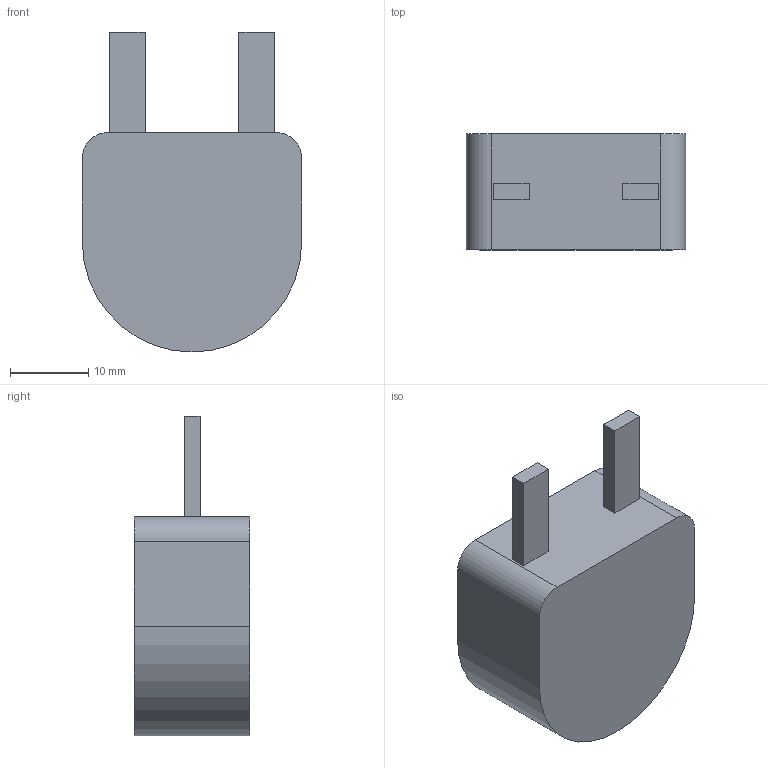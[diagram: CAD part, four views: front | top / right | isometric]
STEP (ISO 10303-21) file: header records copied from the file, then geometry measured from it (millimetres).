
FILE_DESCRIPTION (( 'STEP AP214' ), '1' );
FILE_NAME ('IHXL1100OZEB3R3K3A.STEP', '2025-08-07T20:39:13', ( '' ), ( '' ), 'SwSTEP 2.0', 'SolidWorks 2024', '' );
FILE_SCHEMA (( 'AUTOMOTIVE_DESIGN' ));
Length unit declared in the file: inch
Products named in the file (1): IHXL1100OZEB3R3K3A
Bounding box: 27.94 x 14.76 x 40.77 mm (x, y, z)
Volume: 10451.7 mm3; surface area: 3150.8 mm2
Topology: 1 solids, 1 shells, 19 faces, 45 edges, 30 vertices
Faces by surface type: plane 15, cylinder 4
Entity records: 574 total; most frequent: CARTESIAN_POINT 95, DIRECTION 93, ORIENTED_EDGE 90, EDGE_CURVE 45, VECTOR 37, LINE 37, VERTEX_POINT 30, AXIS2_PLACEMENT_3D 28
